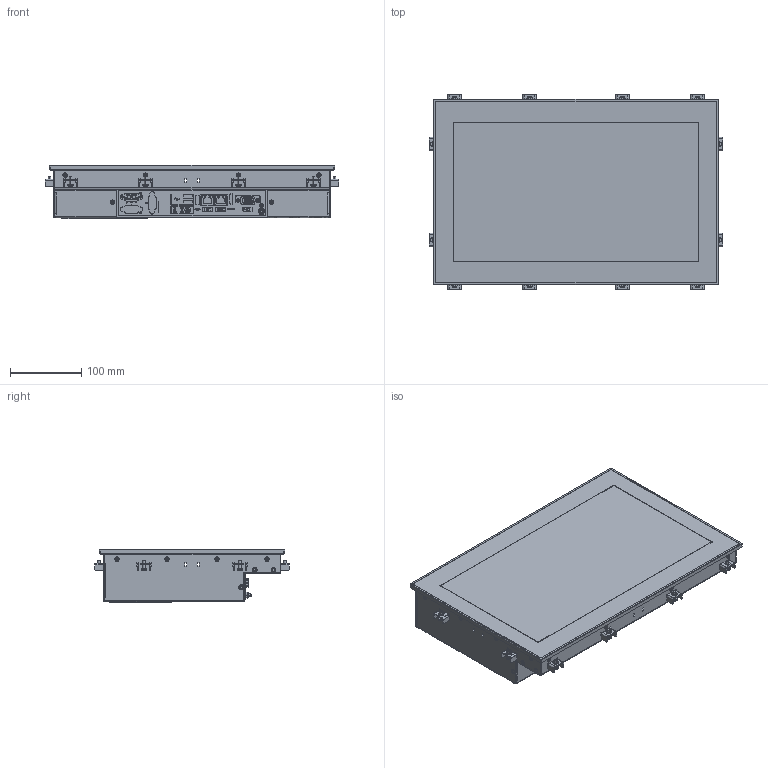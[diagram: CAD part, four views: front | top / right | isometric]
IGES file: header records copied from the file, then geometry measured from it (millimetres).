
Start section:  PTC IGES file: 2030013
Global section: file name: 2030013; native system: Creo Parametric by PTC Inc.; preprocessor: 2019292; author: j.rink; organization: Unknown; date: 20201030.094302; units: millimetre
Bounding box: 411 x 272 x 75.1 mm (x, y, z)
Surface area: 469269.5 mm2 (no closed solid volume)
Topology: 0 solids, 0 shells, 861 faces, 7779 edges, 7749 vertices
Faces by surface type: bspline 517, revolution 344
